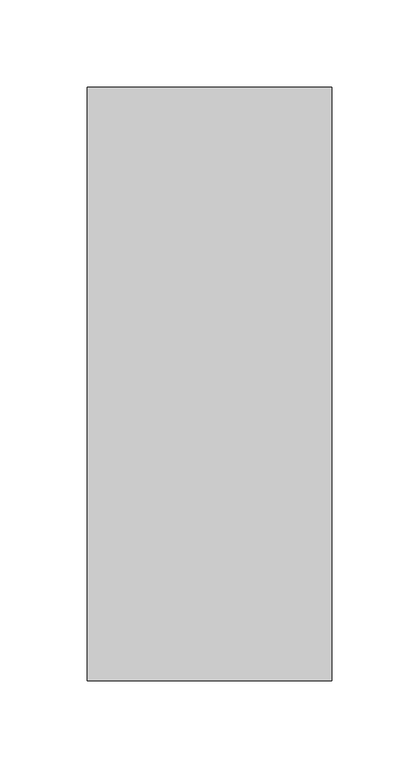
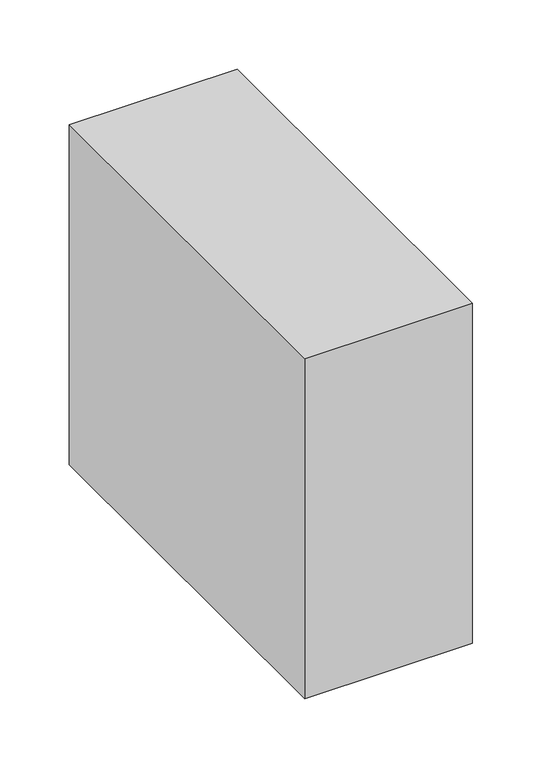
"""IFC4 building model written with IfcOpenShell, lengths in millimetres: proxy geometry."""

import ifcopenshell
import ifcopenshell.guid

model = None  # the IFC model being written
_history = None  # IfcOwnerHistory: only IFC2X3 demands one
_inside = {}  # id of a spatial element -> (the spatial element, [elements in it])
_under = {}  # id of a project, library or spatial element -> (it, [spatial elements below it])
_declared = {}  # id of a project -> (the project, [libraries it declares])
_typed = {}  # id of a type object -> (the type object, [elements of that type])
_made_of = {}  # id of a material, layer set ... -> (it, [elements and type objects made of it])


def new_model(schema):
    """Start an empty IFC model of exactly this schema.

    Asked for "IFC4X3", IfcOpenShell would pick the latest addendum, in which some entities
    have other attributes; the version numbers below select the first issue.
    IFC2X3 requires an IfcOwnerHistory on every rooted entity: one is made here for all.
    """
    global model, _history
    if schema == "IFC4X3":
        model = ifcopenshell.file(schema_version=(4, 3, 0, 0))
    else:
        model = ifcopenshell.file(schema=schema)
    _inside.clear()
    _under.clear()
    _declared.clear()
    _typed.clear()
    _made_of.clear()
    _history = None
    if model.schema == "IFC2X3":
        org = make("IfcOrganization", Name="unknown")
        user = make(
            "IfcPersonAndOrganization",
            ThePerson=make("IfcPerson", FamilyName="unknown"),
            TheOrganization=org,
        )
        app = make(
            "IfcApplication",
            ApplicationDeveloper=org,
            Version="unknown",
            ApplicationFullName="unknown",
            ApplicationIdentifier="unknown",
        )
        _history = make(
            "IfcOwnerHistory",
            OwningUser=user,
            OwningApplication=app,
            ChangeAction="ADDED",
            CreationDate=0,
        )
    return model


def make(cls, **values):
    """One entity of the class cls with the attributes given. An attribute that is None is left unset."""
    return model.create_entity(
        cls, **{name: value for name, value in values.items() if value is not None}
    )


def rooted(cls, **values):
    """An entity with a GlobalId (a new one), such as an element, a storey or a relation."""
    return make(cls, GlobalId=ifcopenshell.guid.new(), OwnerHistory=_history, **values)


def si_unit(unit_type, name, prefix=None):
    """IfcSIUnit, for example si_unit("LENGTHUNIT", "METRE", prefix="MILLI")."""
    return make("IfcSIUnit", UnitType=unit_type, Prefix=prefix, Name=name)


def assignment(units):
    """IfcUnitAssignment: the units of a project."""
    return None if units is None else make("IfcUnitAssignment", Units=units)


def point(xyz):
    """IfcCartesianPoint."""
    return None if xyz is None else make("IfcCartesianPoint", Coordinates=xyz)


def direction(xyz):
    """IfcDirection."""
    return None if xyz is None else make("IfcDirection", DirectionRatios=xyz)


def frame(location, z_axis=None, x_axis=None):
    """IfcAxis2Placement3D, a coordinate frame: its origin and axes. An axis left out is left unset."""
    return make(
        "IfcAxis2Placement3D",
        Location=point(location),
        Axis=direction(z_axis),
        RefDirection=direction(x_axis),
    )


def origin():
    """The frame at (0, 0, 0) with its axes left unset."""
    return frame((0.0, 0.0, 0.0))


def place(relative_to, where):
    """IfcLocalPlacement: puts the frame where relative to a parent placement (None: the world)."""
    return make(
        "IfcLocalPlacement", PlacementRelTo=relative_to, RelativePlacement=where
    )


def context(
    kind, dimensions, precision=None, world=None, true_north=None, identifier=None
):
    """IfcGeometricRepresentationContext, for example the 3D "Model" context."""
    return make(
        "IfcGeometricRepresentationContext",
        ContextIdentifier=identifier,
        ContextType=kind,
        CoordinateSpaceDimension=dimensions,
        Precision=precision,
        WorldCoordinateSystem=world,
        TrueNorth=true_north,
    )


def project(units=None, contexts=None):
    """IfcProject with its units and contexts."""
    return rooted(
        "IfcProject",
        Name="project",
        RepresentationContexts=contexts,
        UnitsInContext=assignment(units),
    )


def spatial(cls, under=None, at=None, **own):
    """A site, building, storey or space (cls), placed at a placement, below another one or the project."""
    s = rooted(cls, ObjectPlacement=at, **own)
    if under is not None:
        _under.setdefault(under.id(), (under, []))[1].append(s)
    return s


def polyline(points):
    """IfcPolyline through the points."""
    return make("IfcPolyline", Points=[point(p) for p in points])


def outline(outer, holes=None, kind="AREA"):
    """IfcArbitraryClosedProfileDef: a profile drawn as a closed curve; with holes, ...WithVoids."""
    if holes is None:
        return make("IfcArbitraryClosedProfileDef", ProfileType=kind, OuterCurve=outer)
    return make(
        "IfcArbitraryProfileDefWithVoids",
        ProfileType=kind,
        OuterCurve=outer,
        InnerCurves=holes,
    )


def extrude(swept, where, along, depth):
    """IfcExtrudedAreaSolid: the profile swept, set in the frame where, extruded along a direction by depth."""
    return make(
        "IfcExtrudedAreaSolid",
        SweptArea=swept,
        Position=where,
        ExtrudedDirection=direction(along),
        Depth=depth,
    )


def shape(context_of_items, identifier, shape_type, items):
    """IfcShapeRepresentation: the items that make up one representation, for example the "Body"."""
    return make(
        "IfcShapeRepresentation",
        ContextOfItems=context_of_items,
        RepresentationIdentifier=identifier,
        RepresentationType=shape_type,
        Items=items,
    )


def source(mapping_origin, context_of_items, identifier, shape_type, items):
    """IfcRepresentationMap: a shape defined once, which mapped items show again and again."""
    return make(
        "IfcRepresentationMap",
        MappingOrigin=mapping_origin,
        MappedRepresentation=shape(context_of_items, identifier, shape_type, items),
    )


def transform(
    local_origin,
    x_axis=None,
    y_axis=None,
    z_axis=None,
    scale=None,
    scale2=None,
    scale3=None,
    uniform=True,
):
    """IfcCartesianTransformationOperator3D, or its non-uniform kind. x_axis, y_axis, z_axis: its Axis1, 2, 3."""
    if uniform:
        return make(
            "IfcCartesianTransformationOperator3D",
            Axis1=direction(x_axis),
            Axis2=direction(y_axis),
            LocalOrigin=point(local_origin),
            Scale=scale,
            Axis3=direction(z_axis),
        )
    return make(
        "IfcCartesianTransformationOperator3DnonUniform",
        Axis1=direction(x_axis),
        Axis2=direction(y_axis),
        LocalOrigin=point(local_origin),
        Scale=scale,
        Axis3=direction(z_axis),
        Scale2=scale2,
        Scale3=scale3,
    )


def mapped(mapping_source, mapping_target):
    """IfcMappedItem: shows the shape of a source again, moved by a transform."""
    return make(
        "IfcMappedItem", MappingSource=mapping_source, MappingTarget=mapping_target
    )


def made_of(thing, what):
    """Note that an element or type object is made of a material, layer set ...; save() writes the relation."""
    if what is not None:
        _made_of.setdefault(what.id(), (what, []))[1].append(thing)
    return thing


def element(
    cls,
    number,
    at=None,
    inside=None,
    cuts=None,
    type_object=None,
    material=None,
    context=None,
    identifier="Body",
    shape_type=None,
    held_by="IfcProductDefinitionShape",
    body=None,
    shapes=None,
    **own,
):
    """One element of the class cls, such as IfcWall. Its Tag is "e" and its number.

    at: its placement. inside: the storey or other place that contains it. cuts: it is an
    opening in that element (IfcRelVoidsElement). A single representation is given by context,
    identifier, shape_type and body (its items); several are given by shapes. held_by: the class
    of the entity that holds the representations. save() writes the other relations.
    """
    e = rooted(cls, Tag="e%d" % number, ObjectPlacement=at, **own)
    if body is not None:
        shapes = [shape(context, identifier, shape_type, body)]
    if shapes is not None:
        e.Representation = make(held_by, Representations=shapes)
    if inside is not None:
        _inside.setdefault(inside.id(), (inside, []))[1].append(e)
    if cuts is not None:
        rooted(
            "IfcRelVoidsElement", RelatingBuildingElement=cuts, RelatedOpeningElement=e
        )
    if type_object is not None:
        _typed.setdefault(type_object.id(), (type_object, []))[1].append(e)
    return made_of(e, material)


def aggregate(whole, parts):
    """IfcRelAggregates: a whole, such as a stair, and the parts it consists of."""
    return rooted("IfcRelAggregates", RelatingObject=whole, RelatedObjects=parts)


def save(model, path):
    """Write the relations noted so far, then the file.

    IfcRelAggregates (storeys below a building ...), IfcRelContainedInSpatialStructure (elements
    in a storey), IfcRelDefinesByType, IfcRelAssociatesMaterial and IfcRelDeclares: one each for
    every whole, place, type object, material and project.
    """
    for whole, parts in _under.values():
        aggregate(whole, parts)
    for where, things in _inside.values():
        rooted(
            "IfcRelContainedInSpatialStructure",
            RelatedElements=things,
            RelatingStructure=where,
        )
    for kind, things in _typed.values():
        rooted("IfcRelDefinesByType", RelatedObjects=things, RelatingType=kind)
    for what, things in _made_of.values():
        rooted("IfcRelAssociatesMaterial", RelatedObjects=things, RelatingMaterial=what)
    for by, libraries in _declared.values():
        rooted("IfcRelDeclares", RelatingContext=by, RelatedDefinitions=libraries)
    model.write(path)


def structural_framing_144cb592(model_context):
    return source(origin(), model_context, "Body", "SweptSolid", [
        extrude(outline(polyline([(70.0, -170.0), (-70.0, -170.0), (-70.0, 170.0), (70.0, 170.0), (70.0, -170.0)])), frame((0.0, 0.0, -300.0), z_axis=(0.0, 0.0, 1.0), x_axis=(1.0, 0.0, 0.0)), (0.0, 0.0, 1.0), 300.0),
    ])


if __name__ == "__main__":
    model = new_model("IFC4")
    model_context = context("Model", 3, world=origin())
    ifc_project = project(units=[si_unit("LENGTHUNIT", "METRE", prefix="MILLI")], contexts=[model_context])
    site = spatial("IfcSite", under=ifc_project)
    building = spatial("IfcBuilding", under=site)
    placement = place(None, origin())
    structural_framing_shape = structural_framing_144cb592(model_context)
    element("IfcBuildingElementProxy", 1, Name="Structural Framing", at=placement, inside=building, context=model_context, shape_type="MappedRepresentation", body=[
        mapped(structural_framing_shape, transform((0.0, 0.0, 0.0), x_axis=(1.0, 0.0, 0.0), y_axis=(0.0, 1.0, 0.0), z_axis=(0.0, 0.0, 1.0))),
    ])
    save(model, "model.ifc")
